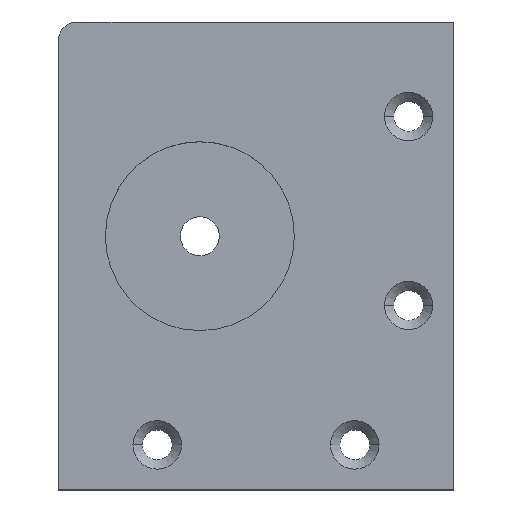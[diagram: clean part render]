
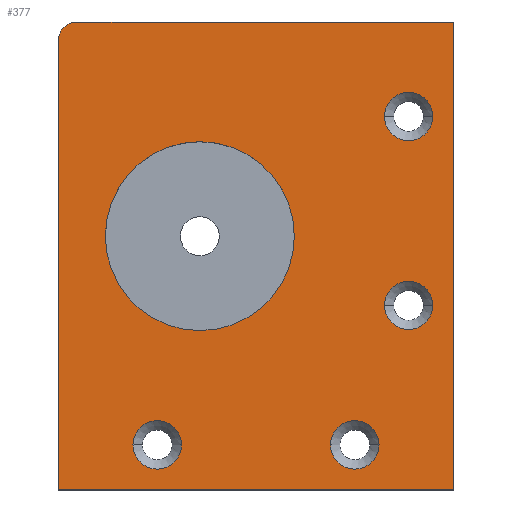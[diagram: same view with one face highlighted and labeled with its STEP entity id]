
A CAD part, top view. The second image highlights one B-rep face of the part: STEP entity #377.
In plain terms, the highlighted planar face has unit normal (0, 0, 1).
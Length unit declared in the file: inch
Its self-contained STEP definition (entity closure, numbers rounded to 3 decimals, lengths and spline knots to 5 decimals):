
#6 = CARTESIAN_POINT ( 'NONE',  ( -32.62386, 22.60029, 0.25 ) ) ;
#14 = VERTEX_POINT ( 'NONE', #135 ) ;
#16 = CARTESIAN_POINT ( 'NONE',  ( -32.91421, 21.84723, 0.25 ) ) ;
#20 = DIRECTION ( 'NONE',  ( 0., 0., -1. ) ) ;
#27 = PLANE ( 'NONE',  #429 ) ;
#28 = VERTEX_POINT ( 'NONE', #768 ) ;
#32 = CARTESIAN_POINT ( 'NONE',  ( -32.75456, 22.60029, 0.25 ) ) ;
#33 = AXIS2_PLACEMENT_3D ( 'NONE', #32, #334, #622 ) ;
#43 = VERTEX_POINT ( 'NONE', #431 ) ;
#44 = CARTESIAN_POINT ( 'NONE',  ( -32.88527, 23.6204, 0.25 ) ) ;
#51 = AXIS2_PLACEMENT_3D ( 'NONE', #516, #511, #859 ) ;
#89 = CIRCLE ( 'NONE', #188, 0.13071 ) ;
#94 = CARTESIAN_POINT ( 'NONE',  ( -34.54498, 24.13045, 0.25 ) ) ;
#97 = FACE_BOUND ( 'NONE', #754, .T. ) ;
#101 = CARTESIAN_POINT ( 'NONE',  ( -65.32313, 0., 0.25 ) ) ;
#110 = VERTEX_POINT ( 'NONE', #16 ) ;
#111 = DIRECTION ( 'NONE',  ( 0., 1., 0. ) ) ;
#116 = CARTESIAN_POINT ( 'NONE',  ( -34.64498, 0., 0.25 ) ) ;
#125 = AXIS2_PLACEMENT_3D ( 'NONE', #895, #886, #468 ) ;
#135 = CARTESIAN_POINT ( 'NONE',  ( -33.37156, 22.97423, 0.25 ) ) ;
#142 = VERTEX_POINT ( 'NONE', #44 ) ;
#148 = CIRCLE ( 'NONE', #625, 0.13071 ) ;
#155 = CARTESIAN_POINT ( 'NONE',  ( -34.64498, 24.03045, 0.25 ) ) ;
#159 = CARTESIAN_POINT ( 'NONE',  ( -32.75456, 23.6204, 0.25 ) ) ;
#160 = EDGE_CURVE ( 'NONE', #28, #110, #389, .T. ) ;
#163 = DIRECTION ( 'NONE',  ( 1., 0., 0. ) ) ;
#170 = ORIENTED_EDGE ( 'NONE', *, *, #233, .T. ) ;
#175 = ORIENTED_EDGE ( 'NONE', *, *, #811, .T. ) ;
#188 = AXIS2_PLACEMENT_3D ( 'NONE', #208, #779, #500 ) ;
#189 = VERTEX_POINT ( 'NONE', #257 ) ;
#203 = EDGE_LOOP ( 'NONE', ( #170, #669, #745, #876, #309 ) ) ;
#205 = CIRCLE ( 'NONE', #33, 0.13071 ) ;
#208 = CARTESIAN_POINT ( 'NONE',  ( -32.75456, 22.60029, 0.25 ) ) ;
#211 = ORIENTED_EDGE ( 'NONE', *, *, #652, .T. ) ;
#226 = DIRECTION ( 'NONE',  ( 0., 0., -1. ) ) ;
#233 = EDGE_CURVE ( 'NONE', #674, #403, #246, .T. ) ;
#246 = LINE ( 'NONE', #116, #921 ) ;
#248 = VERTEX_POINT ( 'NONE', #402 ) ;
#249 = EDGE_CURVE ( 'NONE', #911, #716, #205, .T. ) ;
#257 = CARTESIAN_POINT ( 'NONE',  ( -32.51156, 21.60423, 0.25 ) ) ;
#258 = CIRCLE ( 'NONE', #502, 0.51 ) ;
#270 = CARTESIAN_POINT ( 'NONE',  ( -34.39156, 22.97423, 0.25 ) ) ;
#284 = DIRECTION ( 'NONE',  ( 1., 0., 0. ) ) ;
#290 = CIRCLE ( 'NONE', #725, 0.13071 ) ;
#307 = VERTEX_POINT ( 'NONE', #835 ) ;
#309 = ORIENTED_EDGE ( 'NONE', *, *, #885, .F. ) ;
#311 = DIRECTION ( 'NONE',  ( 0., 0., 1. ) ) ;
#315 = LINE ( 'NONE', #888, #698 ) ;
#322 = VERTEX_POINT ( 'NONE', #270 ) ;
#330 = EDGE_CURVE ( 'NONE', #322, #14, #710, .T. ) ;
#332 = CIRCLE ( 'NONE', #586, 0.13071 ) ;
#334 = DIRECTION ( 'NONE',  ( 0., 0., -1. ) ) ;
#358 = CARTESIAN_POINT ( 'NONE',  ( -33.88156, 22.97423, 0.25 ) ) ;
#362 = CARTESIAN_POINT ( 'NONE',  ( -32.62386, 23.6204, 0.25 ) ) ;
#368 = EDGE_CURVE ( 'NONE', #110, #28, #332, .T. ) ;
#377 = ADVANCED_FACE ( 'NONE', ( #520, #452, #741, #458, #97, #380 ), #27, .T. ) ;
#380 = FACE_OUTER_BOUND ( 'NONE', #203, .T. ) ;
#382 = CARTESIAN_POINT ( 'NONE',  ( -32.88527, 22.60029, 0.25 ) ) ;
#386 = DIRECTION ( 'NONE',  ( -1., 0., 0. ) ) ;
#389 = CIRCLE ( 'NONE', #125, 0.13071 ) ;
#393 = AXIS2_PLACEMENT_3D ( 'NONE', #159, #868, #440 ) ;
#399 = EDGE_CURVE ( 'NONE', #189, #307, #611, .T. ) ;
#402 = CARTESIAN_POINT ( 'NONE',  ( -34.24234, 21.84723, 0.25 ) ) ;
#403 = VERTEX_POINT ( 'NONE', #900 ) ;
#424 = EDGE_CURVE ( 'NONE', #142, #756, #290, .T. ) ;
#429 = AXIS2_PLACEMENT_3D ( 'NONE', #101, #311, #386 ) ;
#431 = CARTESIAN_POINT ( 'NONE',  ( -33.98092, 21.84723, 0.25 ) ) ;
#440 = DIRECTION ( 'NONE',  ( 1., 0., 0. ) ) ;
#447 = EDGE_LOOP ( 'NONE', ( #687, #825 ) ) ;
#452 = FACE_BOUND ( 'NONE', #447, .T. ) ;
#458 = FACE_BOUND ( 'NONE', #759, .T. ) ;
#468 = DIRECTION ( 'NONE',  ( 1., 0., 0. ) ) ;
#473 = CARTESIAN_POINT ( 'NONE',  ( -32.51156, 0., 0.25 ) ) ;
#477 = ORIENTED_EDGE ( 'NONE', *, *, #708, .T. ) ;
#485 = ORIENTED_EDGE ( 'NONE', *, *, #330, .T. ) ;
#494 = EDGE_LOOP ( 'NONE', ( #477, #175 ) ) ;
#500 = DIRECTION ( 'NONE',  ( 1., 0., 0. ) ) ;
#502 = AXIS2_PLACEMENT_3D ( 'NONE', #358, #226, #575 ) ;
#511 = DIRECTION ( 'NONE',  ( 0., 0., -1. ) ) ;
#516 = CARTESIAN_POINT ( 'NONE',  ( -34.11163, 21.84723, 0.25 ) ) ;
#518 = CARTESIAN_POINT ( 'NONE',  ( -34.54498, 24.03045, 0.25 ) ) ;
#520 = FACE_BOUND ( 'NONE', #494, .T. ) ;
#524 = VECTOR ( 'NONE', #284, 39.37008 ) ;
#531 = DIRECTION ( 'NONE',  ( -1., 0., 0. ) ) ;
#538 = DIRECTION ( 'NONE',  ( 0., 0., -1. ) ) ;
#561 = EDGE_CURVE ( 'NONE', #403, #189, #636, .T. ) ;
#564 = AXIS2_PLACEMENT_3D ( 'NONE', #773, #577, #862 ) ;
#575 = DIRECTION ( 'NONE',  ( -1., 0., 0. ) ) ;
#577 = DIRECTION ( 'NONE',  ( 0., 0., -1. ) ) ;
#578 = AXIS2_PLACEMENT_3D ( 'NONE', #518, #743, #531 ) ;
#586 = AXIS2_PLACEMENT_3D ( 'NONE', #593, #538, #878 ) ;
#592 = EDGE_CURVE ( 'NONE', #716, #911, #89, .T. ) ;
#593 = CARTESIAN_POINT ( 'NONE',  ( -33.04492, 21.84723, 0.25 ) ) ;
#601 = ORIENTED_EDGE ( 'NONE', *, *, #424, .T. ) ;
#604 = CIRCLE ( 'NONE', #578, 0.1 ) ;
#611 = LINE ( 'NONE', #473, #857 ) ;
#622 = DIRECTION ( 'NONE',  ( 1., 0., 0. ) ) ;
#625 = AXIS2_PLACEMENT_3D ( 'NONE', #798, #20, #163 ) ;
#635 = ORIENTED_EDGE ( 'NONE', *, *, #592, .T. ) ;
#636 = LINE ( 'NONE', #855, #524 ) ;
#652 = EDGE_CURVE ( 'NONE', #14, #322, #258, .T. ) ;
#669 = ORIENTED_EDGE ( 'NONE', *, *, #561, .T. ) ;
#674 = VERTEX_POINT ( 'NONE', #155 ) ;
#687 = ORIENTED_EDGE ( 'NONE', *, *, #368, .T. ) ;
#698 = VECTOR ( 'NONE', #875, 39.37008 ) ;
#708 = EDGE_CURVE ( 'NONE', #43, #248, #713, .T. ) ;
#710 = CIRCLE ( 'NONE', #564, 0.51 ) ;
#713 = CIRCLE ( 'NONE', #51, 0.13071 ) ;
#716 = VERTEX_POINT ( 'NONE', #6 ) ;
#717 = DIRECTION ( 'NONE',  ( 1., 0., 0. ) ) ;
#725 = AXIS2_PLACEMENT_3D ( 'NONE', #910, #841, #717 ) ;
#741 = FACE_BOUND ( 'NONE', #766, .T. ) ;
#743 = DIRECTION ( 'NONE',  ( 0., 0., -1. ) ) ;
#745 = ORIENTED_EDGE ( 'NONE', *, *, #399, .T. ) ;
#751 = ORIENTED_EDGE ( 'NONE', *, *, #780, .T. ) ;
#754 = EDGE_LOOP ( 'NONE', ( #485, #211 ) ) ;
#756 = VERTEX_POINT ( 'NONE', #362 ) ;
#759 = EDGE_LOOP ( 'NONE', ( #751, #601 ) ) ;
#766 = EDGE_LOOP ( 'NONE', ( #635, #822 ) ) ;
#768 = CARTESIAN_POINT ( 'NONE',  ( -33.17563, 21.84723, 0.25 ) ) ;
#773 = CARTESIAN_POINT ( 'NONE',  ( -33.88156, 22.97423, 0.25 ) ) ;
#779 = DIRECTION ( 'NONE',  ( 0., 0., -1. ) ) ;
#780 = EDGE_CURVE ( 'NONE', #756, #142, #909, .T. ) ;
#798 = CARTESIAN_POINT ( 'NONE',  ( -34.11163, 21.84723, 0.25 ) ) ;
#811 = EDGE_CURVE ( 'NONE', #248, #43, #148, .T. ) ;
#816 = DIRECTION ( 'NONE',  ( 0., -1., 0. ) ) ;
#822 = ORIENTED_EDGE ( 'NONE', *, *, #249, .T. ) ;
#825 = ORIENTED_EDGE ( 'NONE', *, *, #160, .T. ) ;
#831 = VERTEX_POINT ( 'NONE', #94 ) ;
#835 = CARTESIAN_POINT ( 'NONE',  ( -32.51156, 24.13045, 0.25 ) ) ;
#841 = DIRECTION ( 'NONE',  ( 0., 0., -1. ) ) ;
#855 = CARTESIAN_POINT ( 'NONE',  ( 0., 21.60423, 0.25 ) ) ;
#857 = VECTOR ( 'NONE', #111, 39.37008 ) ;
#859 = DIRECTION ( 'NONE',  ( 1., 0., 0. ) ) ;
#862 = DIRECTION ( 'NONE',  ( -1., 0., 0. ) ) ;
#868 = DIRECTION ( 'NONE',  ( 0., 0., -1. ) ) ;
#875 = DIRECTION ( 'NONE',  ( -1., 0., 0. ) ) ;
#876 = ORIENTED_EDGE ( 'NONE', *, *, #920, .T. ) ;
#878 = DIRECTION ( 'NONE',  ( 1., 0., 0. ) ) ;
#885 = EDGE_CURVE ( 'NONE', #674, #831, #604, .T. ) ;
#886 = DIRECTION ( 'NONE',  ( 0., 0., -1. ) ) ;
#888 = CARTESIAN_POINT ( 'NONE',  ( -65.32313, 24.13045, 0.25 ) ) ;
#895 = CARTESIAN_POINT ( 'NONE',  ( -33.04492, 21.84723, 0.25 ) ) ;
#900 = CARTESIAN_POINT ( 'NONE',  ( -34.64498, 21.60423, 0.25 ) ) ;
#909 = CIRCLE ( 'NONE', #393, 0.13071 ) ;
#910 = CARTESIAN_POINT ( 'NONE',  ( -32.75456, 23.6204, 0.25 ) ) ;
#911 = VERTEX_POINT ( 'NONE', #382 ) ;
#920 = EDGE_CURVE ( 'NONE', #307, #831, #315, .T. ) ;
#921 = VECTOR ( 'NONE', #816, 39.37008 ) ;
